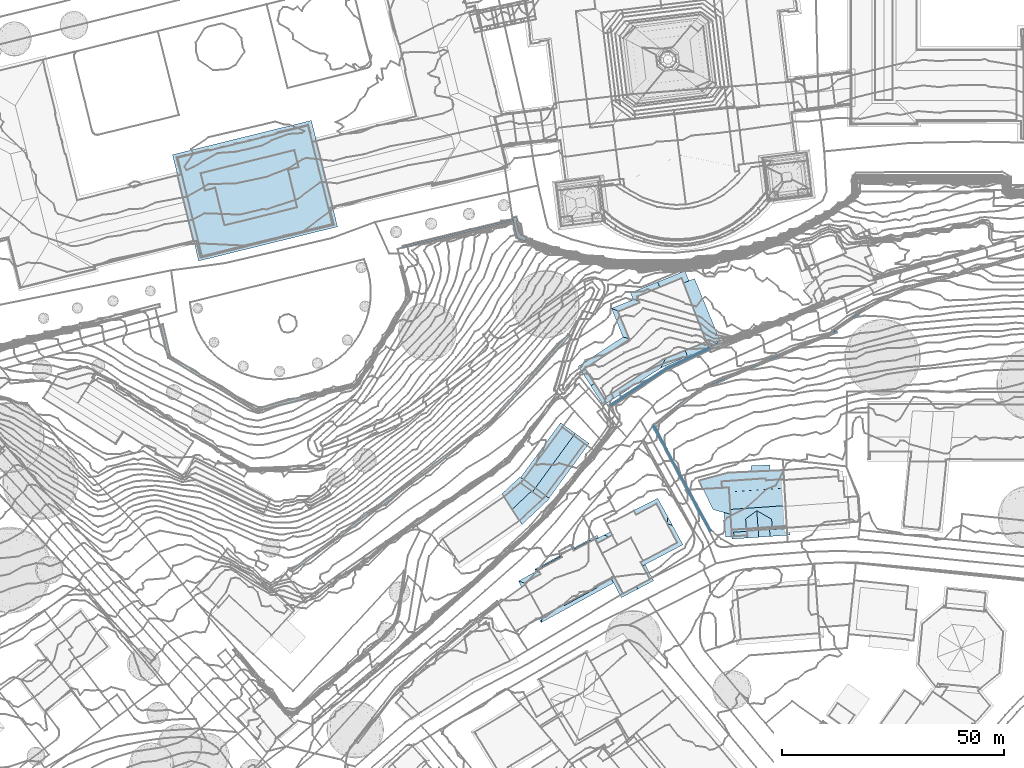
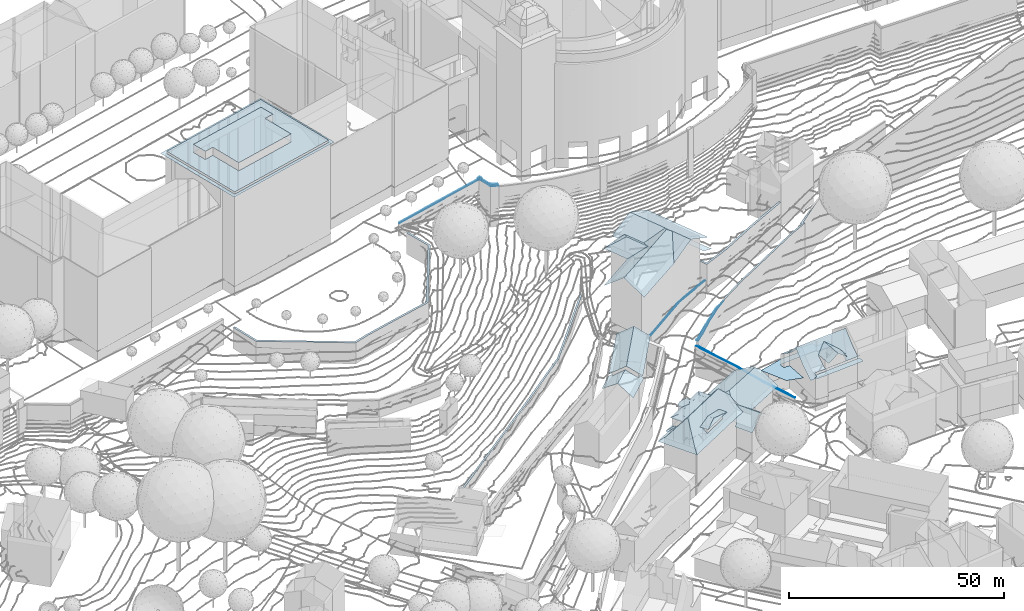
# Not in any storey, part 82 of 477: 20 roofs.
"""IFC4 building model written with IfcOpenShell, lengths in metres."""

from ifc_helpers import new_model, si_unit, frame, origin_with_axes, place, context, subcontext, project, spatial, polygons, element, save


model = new_model("IFC4")

# Units and contexts
model_context = context("Model", 3, precision=1e-05, world=origin_with_axes())
body_context = subcontext(model_context, "Body", "Model", "MODEL_VIEW")
ifc_project = project(units=[si_unit("AREAUNIT", "SQUARE_METRE"), si_unit("LENGTHUNIT", "METRE")], contexts=[model_context])

# Sites, building
site_1_placement = place(None, origin_with_axes())
site_1 = spatial("IfcSite", under=ifc_project, at=site_1_placement, Name="Topoexport Site")
site_2_placement = place(site_1_placement, origin_with_axes())
site_2 = spatial("IfcSite", under=site_1, at=site_2_placement, Name="TPX_BUILDINGS")
building_1_placement = place(site_2_placement, frame((211.8297320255, 101.9383160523, 526.7541), z_axis=(0.0, 0.0, 1.0), x_axis=(1.0, 0.0, 0.0)))
building_1 = spatial("IfcBuilding", under=site_2, at=building_1_placement, Name="Building 18", CompositionType="ELEMENT")

# Roofs
roof_1_placement = place(None, frame((211.8297320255, 101.9383160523, 526.7541), z_axis=(0.0, 0.0, 1.0), x_axis=(1.0, 0.0, 0.0)))
element("IfcRoof", 1, at=roof_1_placement, inside=building_1, Name="Roof 49", context=body_context, shape_type="Tessellation", body=[
    polygons([(260.5320000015, 243.3379000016, 13.4408), (285.4420000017, 249.4101000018, 13.4408), (285.5260000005, 249.0487999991, 13.4408), (260.620000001, 242.9765000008, 13.4408), (285.3690000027, 249.7305000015, 13.5628), (286.4820000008, 249.0634999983, 13.5628), (286.1970000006, 248.9990000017, 13.5628), (286.2809999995, 249.9393999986, 13.5628), (286.7640000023, 246.5692999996, 13.5628), (287.2149999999, 245.8680999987, 13.5628), (288.2349999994, 244.4609000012, 13.5628), (286.4130000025, 245.1796999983, 13.5628), (288.5089999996, 245.3583999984, 13.5628)], [[[3, 2, 1]], [[1, 4, 3]], [[7, 6, 5]], [[8, 5, 6]], [[7, 5, 9]], [[12, 11, 10]], [[10, 9, 12]], [[13, 10, 11]], [[12, 9, 5]]]),
])
roof_2_placement = place(None, frame((211.8297320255, 101.9383160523, 526.7541), z_axis=(0.0, 0.0, 1.0), x_axis=(1.0, 0.0, 0.0)))
element("IfcRoof", 2, at=roof_2_placement, inside=building_1, Name="Roof 73", context=body_context, shape_type="Tessellation", body=[
    polygons([(320.0240000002, 215.8564000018, -13.0867), (329.6909999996, 220.4560000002, -13.0867), (329.8200000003, 220.1338, -13.0868), (320.1950000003, 215.5537, -13.0867), (307.4640000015, 207.6141999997, -13.3507), (307.6610000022, 207.3280999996, -13.3497)], [[[3, 2, 1]], [[1, 4, 3]], [[4, 1, 5]], [[5, 6, 4]]]),
])
roof_3_placement = place(None, frame((211.8297320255, 101.9383160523, 526.7541), z_axis=(0.0, 0.0, 1.0), x_axis=(1.0, 0.0, 0.0)))
element("IfcRoof", 3, at=roof_3_placement, inside=building_1, Name="Roof 74", context=body_context, shape_type="Tessellation", body=[
    polygons([(330.2320000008, 220.5643999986, -8.4892), (336.4900000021, 222.9530999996, -8.1932), (329.9260000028, 219.8671999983, -8.4892), (329.1080000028, 221.9189000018, -8.4892), (329.6119999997, 222.120099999, -8.4892), (336.6920000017, 222.4492000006, -8.1932), (355.8230000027, 231.0771000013, -6.4134), (356.0329999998, 230.5771000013, -6.4134), (345.5150000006, 226.7470999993, -7.1543), (345.7250000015, 226.2470999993, -7.1543)], [[[3, 2, 1]], [[5, 4, 1]], [[3, 1, 4]], [[2, 3, 6]], [[9, 8, 7]], [[2, 6, 9]], [[10, 9, 6]], [[10, 8, 9]]]),
])
roof_4_placement = place(None, frame((211.8297320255, 101.9383160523, 526.7541), z_axis=(0.0, 0.0, 1.0), x_axis=(1.0, 0.0, 0.0)))
element("IfcRoof", 4, at=roof_4_placement, inside=building_1, Name="Roof 76", context=body_context, shape_type="Tessellation", body=[
    polygons([(235.6860000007, 170.3574000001, -8.7491), (264.8280000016, 191.9404000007, -8.3042), (235.7670000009, 169.8007999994, -8.7491), (234.7090000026, 170.1854999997, -8.7491), (234.8790000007, 170.6504000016, -8.7491), (265.126000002, 191.5458999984, -8.3042), (298.3029999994, 223.1532999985, -8.0072), (280.9480000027, 203.7412, -8.3042), (280.6090000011, 204.1053999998, -8.3042), (297.9340000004, 223.4833999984, -8.0072)], [[[3, 2, 1]], [[5, 4, 1]], [[3, 1, 4]], [[3, 6, 2]], [[9, 8, 7]], [[7, 10, 9]], [[2, 6, 9]], [[8, 9, 6]]]),
])
roof_5_placement = place(None, frame((211.8297320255, 101.9383160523, 526.7541), z_axis=(0.0, 0.0, 1.0), x_axis=(1.0, 0.0, 0.0)))
element("IfcRoof", 5, at=roof_5_placement, inside=building_1, Name="Roof 77", context=body_context, shape_type="Tessellation", body=[
    polygons([(205.9340000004, 225.5936999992, 13.5628), (208.1950000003, 218.4345999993, 13.5628), (207.700000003, 218.0762000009, 13.5628), (227.620000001, 206.4824000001, 13.5628), (231.375, 207.0731999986, 13.5628), (227.5439999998, 205.8671999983, 13.5628), (231.2230000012, 207.6162, 13.5628), (206.4830000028, 225.7226000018, 13.5628), (238.7939999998, 209.4706999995, 13.5628), (238.9260000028, 208.9228000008, 13.5628), (246.5879999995, 210.7558000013, 13.5628), (249.9810000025, 212.0956999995, 13.5628), (246.4610000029, 211.3057000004, 13.5628), (255.1559999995, 220.6933000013, 13.5628), (255.6390000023, 220.4023000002, 13.5628), (250.3399999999, 211.5986000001, 13.5628), (261.8560000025, 231.7558000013, 13.5628), (260.0400000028, 238.6777000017, 13.5628), (260.5860000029, 238.8203000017, 13.5628), (262.4620000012, 231.6669999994, 13.5628)], [[[3, 2, 1]], [[2, 3, 4]], [[4, 6, 5]], [[6, 4, 3]], [[7, 4, 5]], [[1, 2, 8]], [[5, 9, 7]], [[9, 5, 10]], [[9, 10, 11]], [[13, 11, 12]], [[11, 13, 9]], [[15, 14, 12]], [[16, 12, 11]], [[15, 12, 16]], [[19, 18, 17]], [[17, 15, 20]], [[17, 20, 19]], [[14, 15, 17]]]),
])
roof_6_placement = place(None, frame((211.8297320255, 101.9383160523, 526.7541), z_axis=(0.0, 0.0, 1.0), x_axis=(1.0, 0.0, 0.0)))
element("IfcRoof", 6, at=roof_6_placement, inside=building_1, Name="Roof 82", context=body_context, shape_type="Tessellation", body=[
    polygons([(327.0160000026, 210.5722000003, -14.1347), (327.3210000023, 210.2148000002, -14.1247), (325.4169999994, 209.3729999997, -14.4056), (325.7039999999, 209.0243999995, -14.4046), (329.5329999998, 211.4404000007, -13.6877), (323.7280000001, 207.5370999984, -14.5966), (323.4570000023, 207.9023000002, -14.5956), (318.8420000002, 204.1103000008, -15.2206), (319.1640000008, 203.6992000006, -15.2206), (317.3619999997, 202.9580000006, -15.2336), (317.5140000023, 202.3574000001, -15.2356), (317.2360000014, 202.8603000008, -15.2346)], [[[3, 2, 1]], [[2, 3, 4]], [[5, 1, 2]], [[7, 6, 3]], [[4, 3, 6]], [[6, 7, 8]], [[8, 9, 6]], [[12, 11, 10]], [[10, 9, 8]], [[9, 10, 11]]]),
])
roof_7_placement = place(None, frame((211.8297320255, 101.9383160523, 526.7541), z_axis=(0.0, 0.0, 1.0), x_axis=(1.0, 0.0, 0.0)))
element("IfcRoof", 7, at=roof_7_placement, inside=building_1, Name="Roof 83", context=body_context, shape_type="Tessellation", body=[
    polygons([(353.4940000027, 222.2256000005, -9.6301), (348.3960000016, 219.5342000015, -10.34), (348.2180000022, 219.9853000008, -10.339), (354.0190000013, 221.9697000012, -9.5821), (336.2930000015, 214.442400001, -12.1529), (330.8370000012, 212.0936999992, -13.3767), (336.1300000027, 214.8555000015, -12.1509), (357.693, 223.8564000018, -9.1681), (358.6170000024, 223.8066000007, -9.1681), (358.4250000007, 224.3143999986, -9.1681), (357.5240000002, 224.2617000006, -9.1681), (364.5199999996, 228.5967000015, -8.2052), (329.5329999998, 211.4404000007, -13.6877), (329.2880000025, 211.7743999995, -13.6997), (330.8900000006, 212.6229999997, -13.3187), (327.0160000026, 210.5722000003, -14.1347)], [[[3, 2, 1]], [[4, 1, 2]], [[7, 6, 5]], [[1, 9, 8]], [[9, 1, 4]], [[11, 8, 10]], [[9, 10, 8]], [[12, 11, 10]], [[15, 14, 13]], [[16, 13, 14]], [[2, 3, 5]], [[7, 5, 3]], [[7, 15, 6]], [[13, 6, 15]]]),
])
roof_8_placement = place(None, frame((211.8297320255, 101.9383160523, 526.7541), z_axis=(0.0, 0.0, 1.0), x_axis=(1.0, 0.0, 0.0)))
element("IfcRoof", 8, at=roof_8_placement, inside=building_1, Name="Roof 85", context=body_context, shape_type="Tessellation", body=[
    polygons([(330.1400000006, 179.2109000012, -21.656), (330.2019999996, 179.1581999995, -21.669), (329.9570000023, 179.0137000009, -21.669), (327.8320000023, 183.4316000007, -20.7571)], [[[3, 2, 1]], [[4, 3, 1]]]),
])
roof_9_placement = place(None, frame((211.8297320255, 101.9383160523, 526.7541), z_axis=(0.0, 0.0, 1.0), x_axis=(1.0, 0.0, 0.0)))
element("IfcRoof", 9, at=roof_9_placement, inside=building_1, Name="Roof 86", context=body_context, shape_type="Tessellation", body=[
    polygons([(323.4299999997, 191.4824000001, -18.9962), (322.4910000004, 192.7012000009, -18.6592), (322.7210000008, 192.8222999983, -18.6592), (325.938000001, 186.8964999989, -20.1591), (325.6339999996, 186.7373000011, -20.1591), (320.2380000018, 197.5185000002, -17.8803), (320.0100000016, 197.3916000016, -17.8803), (327.4610000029, 183.2256000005, -20.7571), (327.8320000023, 183.4316000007, -20.7571), (329.9570000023, 179.0137000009, -21.669), (316.9629999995, 202.6484000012, -16.6504), (317.6300000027, 202.4512000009, -16.7524), (317.5140000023, 202.3574000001, -16.7574), (317.2360000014, 202.8603000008, -16.6404)], [[[3, 2, 1]], [[1, 5, 4]], [[5, 1, 2]], [[2, 3, 6]], [[6, 7, 2]], [[10, 9, 8]], [[7, 6, 11]], [[13, 6, 12]], [[11, 6, 13]], [[14, 11, 13]], [[4, 5, 9]], [[8, 9, 5]]]),
])

# Building
building_2_placement = place(site_2_placement, frame((495.292732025, 288.7264160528, 509.5088), z_axis=(0.0, 0.0, 1.0), x_axis=(1.0, 0.0, 0.0)))
building_2 = spatial("IfcBuilding", under=site_2, at=building_2_placement, Name="Building 110", CompositionType="ELEMENT")

# Roofs
roof_10_placement = place(None, frame((495.292732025, 288.7264160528, 509.5088), z_axis=(0.0, 0.0, 1.0), x_axis=(1.0, 0.0, 0.0)))
element("IfcRoof", 10, at=roof_10_placement, inside=building_2, Name="Roof 0", context=body_context, shape_type="Tessellation", body=[
    polygons([(6.1500000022, 1.2479999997, 12.3218), (8.6700000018, -0.5927999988, 10.191), (1.813000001, -2.8125, 12.3218), (4.0310000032, -6.253899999, 9.522), (9.3670000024, 0.1933000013, 10.258), (10.2380000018, -0.442400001, 9.522), (9.0329999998, -0.2578000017, 10.188), (-0.4499999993, 0.6972000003, 9.522), (3.643000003, 3.0780999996, 10.244), (3.5500000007, 4.441399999, 9.522), (4.1290000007, 3.4891999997, 10.266), (4.3840000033, 3.8319999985, 10.213)], [[[3, 2, 1]], [[2, 3, 4]], [[7, 6, 5]], [[6, 7, 2]], [[6, 2, 4]], [[3, 9, 8]], [[9, 3, 1]], [[8, 9, 10]], [[12, 10, 11]], [[11, 10, 9]]]),
])
roof_11_placement = place(None, frame((495.292732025, 288.7264160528, 509.5088), z_axis=(0.0, 0.0, 1.0), x_axis=(1.0, 0.0, 0.0)))
element("IfcRoof", 11, at=roof_11_placement, inside=building_2, Name="Roof 1", context=body_context, shape_type="Tessellation", body=[
    polygons([(9.5020000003, -1.2001999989, 10.8019), (6.381000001, 1.0790999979, 13.2887), (19.1530000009, 12.0165999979, 10.8019), (12.7350000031, 16.7030999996, 10.8019), (3.0840000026, 3.4862999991, 10.8019), (16.0320000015, 14.2958999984, 13.2887)], [[[3, 2, 1]], [[5, 2, 4]], [[6, 2, 3]], [[2, 6, 4]]]),
])

# Building
building_3_placement = place(site_2_placement, frame((499.9197320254, 269.244916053, 502.2044), z_axis=(0.0, 0.0, 1.0), x_axis=(1.0, 0.0, 0.0)))
building_3 = spatial("IfcBuilding", under=site_2, at=building_3_placement, Name="Building 113", CompositionType="ELEMENT")

# Roof
roof_12_placement = place(None, frame((499.9197320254, 269.244916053, 502.2044), z_axis=(0.0, 0.0, 1.0), x_axis=(1.0, 0.0, 0.0)))
element("IfcRoof", 12, at=roof_12_placement, inside=building_3, Name="Roof 0", context=body_context, shape_type="Tessellation", body=[
    polygons([(4.7050000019, 2.3583999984, 13.5117), (0.4750000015, -0.2010999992, 13.6747), (0.0260000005, -0.0469000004, 13.4137), (3.3520000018, 2.5077999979, 12.9308), (-1.4169999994, 0.4472999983, 12.5738), (2.5230000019, 2.5995999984, 12.5738), (4.8090000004, 2.1669999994, 13.6747), (3.2369999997, 2.9638999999, 12.9908), (2.2470000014, 3.1044999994, 12.5738), (4.4710000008, 2.7870999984, 13.5117), (4.182, -6.9853000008, 13.6747), (21.0280000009, 2.2206999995, 13.6747), (4.0800000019, -7.3993999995, 13.4397), (3.7060000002, -8.9266999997, 12.5738), (21.7360000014, 0.9257999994, 12.5738), (13.2960000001, -1.8515000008, 15.8995), (8.9150000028, -5.1006000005, 15.5725), (11.1680000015, -3.0146000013, 15.8995), (12.075000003, -2.1737999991, 16.0315), (16.3310000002, -1.0469000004, 15.5725), (15.2600000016, 0.9140999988, 15.5725), (11.3200000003, -0.7928999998, 16.0315), (7.8430000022, -3.1396000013, 15.5725), (8.1710000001, 6.3418000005, 12.5738), (8.4600000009, 5.8359999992, 12.9808), (4.1110000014, 3.4433999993, 12.9888), (14.7790000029, 9.2998000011, 12.8818), (11.1229999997, 7.3193999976, 12.8728), (10.8540000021, 7.808600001, 12.5738), (10.8500000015, 7.8066999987, 12.5738), (17.3210000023, 9.004900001, 13.6747), (16.5460000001, 8.5821000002, 13.6747), (16.3370000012, 10.8046999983, 12.5738), (15.4880000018, 8.0029999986, 13.6747), (12.2220000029, 8.5557000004, 12.5239), (11.3450000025, 7.7441999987, 15.5725), (14.6449999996, 9.2276000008, 15.6585), (11.1090000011, 7.3447000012, 15.6445), (10.1480000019, 5.7168000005, 15.9395), (13.9270000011, 7.7822000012, 15.9395), (14.8630000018, 9.6669999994, 15.5725), (10.9030000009, 8.5527999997, 15.5725), (4.2719999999, 3.5331999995, 15.6645), (3.7460000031, 3.5907999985, 15.5725), (7.9910000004, 5.9111999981, 15.5725), (5.8370000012, 3.3603999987, 15.9395), (8.4400000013, 5.871100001, 15.6485), (8.0720000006, 6.5175999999, 15.6465), (7.5490000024, 6.7197000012, 15.5725), (8.1040000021, 7.4540999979, 15.5725), (7.8949999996, 7.1777999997, 15.5725), (7.7820000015, 7.0273999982, 15.5725), (8.9040000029, 8.1327999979, 15.5725), (10.3330000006, 8.5137000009, 15.5725), (10.4600000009, 8.5223000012, 15.5724), (9.8920000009, 8.4844000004, 15.5725), (6.9700000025, 1.2881000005, 15.9395), (15.0600000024, 5.7089999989, 15.9395), (16.4330000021, 6.7929999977, 15.5725), (5.3170000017, 0.7177999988, 15.5725), (17.8159999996, 6.1415999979, 17.1194), (20.0670000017, 3.9804999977, 16.0245), (18.7440000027, 4.3603999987, 17.1594), (17.3480000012, 4.7608000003, 18.3552), (18.2259999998, 7.3486999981, 16.0385), (9.2140000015, -4.0820000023, 13.8317), (15.313000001, -0.7479999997, 13.8337), (5.3530000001, -1.7939000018, 18.3552), (7.9250000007, -3.2890000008, 15.3725), (8.5500000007, -2.8672000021, 15.4545), (14.6510000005, 0.4648999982, 15.4525), (15.3420000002, 0.7637000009, 15.3725), (5.2400000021, 0.8574000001, 15.3725), (5.4800000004, 0.9404999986, 15.4255), (16.3570000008, 6.932599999, 15.3725), (16.1579999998, 6.7753999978, 15.4255)], [[[3, 2, 1]], [[5, 3, 4]], [[1, 4, 3]], [[6, 5, 4]], [[2, 7, 1]], [[9, 6, 8]], [[8, 6, 4]], [[4, 1, 10]], [[4, 10, 8]], [[13, 12, 11]], [[15, 13, 14]], [[15, 12, 13]], [[3, 13, 2]], [[14, 3, 5]], [[13, 11, 2]], [[14, 13, 3]], [[18, 17, 16]], [[16, 19, 18]], [[20, 16, 17]], [[21, 16, 20]], [[21, 19, 16]], [[19, 21, 22]], [[19, 22, 18]], [[18, 23, 17]], [[23, 18, 22]], [[26, 25, 24]], [[26, 9, 8]], [[9, 26, 24]], [[26, 8, 10]], [[29, 28, 27]], [[29, 30, 28]], [[32, 31, 27]], [[27, 33, 29]], [[33, 27, 31]], [[32, 27, 34]], [[30, 29, 35]], [[38, 37, 36]], [[40, 38, 39]], [[37, 41, 36]], [[37, 38, 40]], [[38, 36, 42]], [[39, 38, 42]], [[45, 44, 43]], [[47, 43, 46]], [[43, 47, 45]], [[47, 46, 39]], [[47, 39, 48]], [[47, 49, 45]], [[49, 47, 48]], [[39, 50, 48]], [[48, 50, 51]], [[51, 52, 48]], [[52, 49, 48]], [[39, 53, 50]], [[55, 54, 42]], [[39, 42, 54]], [[54, 56, 39]], [[53, 39, 56]], [[46, 57, 39]], [[39, 58, 40]], [[58, 39, 57]], [[58, 59, 37]], [[58, 37, 40]], [[37, 59, 41]], [[43, 44, 60]], [[46, 60, 57]], [[60, 46, 43]], [[63, 62, 61]], [[63, 61, 64]], [[61, 62, 65]], [[12, 67, 66]], [[66, 11, 12]], [[22, 68, 23]], [[68, 11, 23]], [[23, 11, 69]], [[66, 70, 69]], [[69, 11, 66]], [[68, 22, 64]], [[72, 71, 12]], [[12, 71, 67]], [[63, 22, 21]], [[62, 63, 21]], [[62, 21, 72]], [[22, 63, 64]], [[12, 62, 72]], [[2, 11, 68]], [[68, 60, 2]], [[60, 68, 57]], [[61, 58, 57]], [[57, 68, 64]], [[2, 73, 7]], [[73, 2, 60]], [[74, 7, 73]], [[61, 65, 58]], [[65, 59, 58]], [[59, 65, 75]], [[34, 76, 75]], [[75, 31, 32]], [[31, 75, 65]], [[75, 32, 34]], [[61, 57, 64]]]),
])

# Building
building_4_placement = place(site_2_placement, frame((516.2887320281, 278.1668160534, 502.5014), z_axis=(0.0, 0.0, 1.0), x_axis=(1.0, 0.0, 0.0)))
building_4 = spatial("IfcBuilding", under=site_2, at=building_4_placement, Name="Building 114", CompositionType="ELEMENT")

# Roof
roof_13_placement = place(None, frame((516.2887320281, 278.1668160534, 502.5014), z_axis=(0.0, 0.0, 1.0), x_axis=(1.0, 0.0, 0.0)))
element("IfcRoof", 13, at=roof_13_placement, inside=building_4, Name="Roof 0", context=body_context, shape_type="Tessellation", body=[
    polygons([(15.7559999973, 4.5341999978, 13.6317), (15.9479999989, 6.0155999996, 12.9317), (17.0249999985, 4.0145999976, 12.9977), (5.9589999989, -0.6016000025, 13.6317), (5.4629999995, -2.1631000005, 12.9347), (4.4599999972, -0.0439000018, 12.9517), (19.3359999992, -0.2763999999, 10.051), (10.2819999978, -5.0225000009, 10.051), (6.4469999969, -4.2402000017, 11.5469), (9.3259999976, -5.5234000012, 10.051), (1.5249999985, -2.9238000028, 9.947), (0.0, 0.0, 9.931), (0.1669999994, 0.0907999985, 10.039), (1.4869999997, 1.9208999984, 11.1789), (3.9560000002, -0.7422000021, 11.7399), (2.7630000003, 1.5126999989, 11.7189), (4.1219999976, -0.6523000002, 11.8468), (4.9689999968, -1.1201000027, 12.1548), (4.493999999, -1.3691000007, 11.8498), (4.4599999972, -0.0439000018, 12.1748), (-0.3080000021, 1.0048999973, 10.035), (3.9499999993, 0.8710999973, 12.1528), (3.7729999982, 1.1884999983, 12.1448), (4.3559999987, -1.4414000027, 11.7618), (3.3289999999, -1.9794999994, 10.9039), (3.943, -7.5742000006, 9.3831), (1.5229999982, -2.9248000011, 9.3941), (5.4329999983, -12.2118999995, 8.7661), (3.2119999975, -7.9736000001, 8.7661), (4.1030000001, -0.6621000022, 11.8638), (9.1389999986, -10.2705000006, 11.8638), (6.311999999, -3.9550999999, 11.5369), (4.6270000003, -1.2988000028, 11.7359), (4.9689999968, -1.1201000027, 11.4399), (9.557, -5.4023000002, 9.851), (12.7239999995, -8.3896000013, 8.7661), (10.2819999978, -5.0225000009, 9.2251), (9.8539999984, -4.2168000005, 9.2291), (10.3880000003, -3.9326000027, 8.7661), (2.9499999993, 2.6669999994, 11.1789), (2.1789999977, 4.365199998, 10.115), (2.0419999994, 4.2949000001, 10.114), (13.6359999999, 10.2118999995, 10.195), (3.7859999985, 5.1845999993, 10.126), (19.3359999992, -0.2763999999, 9.851), (11.8279999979, -4.2109000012, 10.001)], [[[3, 2, 1]], [[6, 5, 4]], [[3, 1, 7]], [[8, 7, 1]], [[1, 4, 8]], [[4, 5, 9]], [[10, 8, 9]], [[9, 8, 4]], [[13, 12, 11]], [[11, 14, 13]], [[14, 11, 15]], [[15, 17, 16]], [[19, 18, 17]], [[17, 18, 20]], [[13, 14, 21]], [[22, 16, 17]], [[23, 16, 22]], [[16, 14, 15]], [[22, 17, 20]], [[15, 11, 24]], [[27, 26, 25]], [[26, 29, 28]], [[30, 15, 24]], [[31, 24, 25]], [[30, 24, 31]], [[25, 26, 31]], [[31, 26, 28]], [[17, 30, 19]], [[19, 30, 31]], [[34, 33, 32]], [[32, 33, 19]], [[19, 9, 32]], [[19, 31, 9]], [[36, 35, 10]], [[10, 9, 31]], [[36, 10, 31]], [[39, 38, 37]], [[37, 36, 39]], [[36, 37, 35]], [[23, 6, 2]], [[40, 16, 2]], [[40, 14, 16]], [[42, 40, 41]], [[16, 23, 2]], [[4, 1, 2]], [[43, 40, 2]], [[44, 41, 40]], [[40, 43, 44]], [[6, 4, 2]], [[8, 46, 45]]]),
])

# Building
building_5_placement = place(site_2_placement, frame((513.5957320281, 317.6404160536, 509.4928), z_axis=(0.0, 0.0, 1.0), x_axis=(1.0, 0.0, 0.0)))
building_5 = spatial("IfcBuilding", under=site_2, at=building_5_placement, Name="Building 116", CompositionType="ELEMENT")

# Roofs
roof_14_placement = place(None, frame((513.5957320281, 317.6404160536, 509.4928), z_axis=(0.0, 0.0, 1.0), x_axis=(1.0, 0.0, 0.0)))
element("IfcRoof", 14, at=roof_14_placement, inside=building_5, Name="Roof 0", context=body_context, shape_type="Tessellation", body=[
    polygons([(27.2879999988, 5.9628999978, 12.3058), (27.3729999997, 5.9970999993, 12.2738), (27.7219999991, 4.9091999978, 12.3058), (30.5109999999, 6.0566999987, 11.2639), (22.1969999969, 19.3085999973, 12.1768), (24.6409999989, 20.3154999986, 11.2639)], [[[3, 2, 1]], [[2, 3, 4]], [[2, 6, 5]], [[2, 4, 6]]]),
])
roof_15_placement = place(None, frame((513.5957320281, 317.6404160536, 509.4928), z_axis=(0.0, 0.0, 1.0), x_axis=(1.0, 0.0, 0.0)))
element("IfcRoof", 15, at=roof_15_placement, inside=building_5, Name="Roof 1", context=body_context, shape_type="Tessellation", body=[
    polygons([(-1.6229999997, 0.4687999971, 15.4205), (8.5130000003, 7.1327999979, 15.4205), (9.9519999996, 6.7344000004, 16.2454), (1.242999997, -3.8925000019, 19.2541), (13.2729999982, 5.8154999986, 18.1502), (20.2419999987, 9.8046999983, 18.5142), (19.6319999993, 8.1972999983, 19.2541), (14.6009999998, 10.0205000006, 16.1054), (16.810999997, 18.3222999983, 18.5142), (12.5009999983, 15.2324999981, 16.1054), (10.1739999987, 17.0898999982, 15.4205), (16.311999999, 19.5625, 18.5142), (10.799999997, 15.5370999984, 15.4205), (10.925999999, 11.6415999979, 18.1502), (5.9189999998, 13.5713, 15.4205), (7.6380000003, 12.9081999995, 16.3574), (21.0159999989, 7.8827999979, 18.5142), (18.1059999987, 2.2529999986, 16.2684), (4.1559999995, -8.3222000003, 15.4205), (17.0069999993, 0.1259999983, 15.4205), (23.0759999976, 2.7675999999, 18.5142), (22.5590000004, 4.0527999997, 18.5142), (29.1829999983, 5.423899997, 15.4305), (22.4869999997, 22.0497999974, 15.4305)], [[[3, 2, 1]], [[1, 4, 3]], [[7, 6, 5]], [[5, 3, 4]], [[8, 5, 6]], [[7, 5, 4]], [[10, 8, 9]], [[8, 6, 9]], [[12, 11, 10]], [[13, 10, 11]], [[10, 9, 12]], [[10, 14, 8]], [[5, 8, 14]], [[16, 15, 2]], [[14, 16, 3]], [[3, 5, 14]], [[3, 16, 2]], [[10, 13, 14]], [[13, 16, 14]], [[16, 13, 15]], [[17, 6, 7]], [[18, 17, 4]], [[4, 17, 7]], [[20, 18, 19]], [[19, 18, 4]], [[18, 20, 21]], [[22, 17, 18]], [[22, 18, 21]], [[23, 22, 21]], [[22, 23, 17]], [[23, 6, 17]], [[6, 24, 9]], [[24, 6, 23]], [[12, 9, 24]]]),
])

# Building
building_6_placement = place(site_2_placement, frame((539.2757320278, 292.3553160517, 501.0115), z_axis=(0.0, 0.0, 1.0), x_axis=(1.0, 0.0, 0.0)))
building_6 = spatial("IfcBuilding", under=site_2, at=building_6_placement, Name="Building 117", CompositionType="ELEMENT")

# Roofs
roof_16_placement = place(None, frame((539.2757320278, 292.3553160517, 501.0115), z_axis=(0.0, 0.0, 1.0), x_axis=(1.0, 0.0, 0.0)))
element("IfcRoof", 16, at=roof_16_placement, inside=building_6, Name="Roof 0", context=body_context, shape_type="Tessellation", body=[
    polygons([(6.7630000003, -1.5878999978, 5.8745), (7.1259999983, -7.5878999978, 5.8744), (5.2049999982, -1.6728999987, 5.8745), (3.129999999, -6.5439999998, 5.8744), (5.1039999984, -0.2100000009, 5.8745), (6.5359999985, 1.754900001, 5.8745), (0.0, 0.0, 5.8745), (11.5989999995, 1.9844000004, 5.8745), (15.112999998, 0.0155999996, 5.8744), (15.0810000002, 0.4803999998, 5.8744), (16.0590000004, 2.1865000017, 5.8744), (11.7899999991, 3.3808000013, 5.8745), (19.7589999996, 0.1220000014, 5.8744), (19.2170000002, 0.0839999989, 5.8744), (19.2049999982, 0.2987999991, 5.8744), (19.6389999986, 2.3496000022, 5.8744), (15.9389999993, 3.5311999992, 5.8745)], [[[3, 2, 1]], [[2, 3, 4]], [[4, 3, 5]], [[7, 5, 6]], [[7, 4, 5]], [[5, 8, 6]], [[11, 10, 9]], [[10, 12, 8]], [[15, 14, 13]], [[15, 13, 16]], [[11, 9, 15]], [[17, 12, 11]], [[15, 16, 11]], [[12, 10, 11]], [[8, 5, 10]]]),
])
roof_17_placement = place(None, frame((539.2757320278, 292.3553160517, 501.0115), z_axis=(0.0, 0.0, 1.0), x_axis=(1.0, 0.0, 0.0)))
element("IfcRoof", 17, at=roof_17_placement, inside=building_6, Name="Roof 1", context=body_context, shape_type="Tessellation", body=[
    polygons([(7.8519999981, -12.4189999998, 8.8042), (7.4019999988, -13.1895000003, 8.8042), (7.3559999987, -12.4521999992, 8.8042), (10.867999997, -11.4239000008, 8.8042), (7.8349999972, -12.1748000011, 8.8042), (7.7969999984, -11.6367000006, 8.8042), (20.4749999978, -12.2841999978, 8.8041), (20.362999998, -10.6620999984, 8.8041), (10.862999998, -11.3583999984, 8.8042), (5.2049999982, -1.6728999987, 9.6951), (6.8220000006, -2.557599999, 10.261), (5.2740000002, -2.6651000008, 10.261), (5.1039999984, -0.2100000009, 8.8612), (15.112999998, 0.0155999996, 9.1271), (15.0810000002, 0.4803999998, 8.8612), (19.3189999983, -1.692400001, 10.261), (19.6019999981, 0.3251999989, 9.1271), (19.6169999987, 0.1123000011, 9.2491), (19.2170000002, 0.0839999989, 9.2481), (19.2049999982, 0.2987999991, 9.1271), (7.4049999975, -12.2040999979, 8.8042), (7.3399999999, -12.2100000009, 8.8042), (7.2719999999, -11.1279999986, 8.8042), (7.3399999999, -11.1230999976, 8.8042), (19.7069999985, -8.4677999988, 11.3619), (16.375, -8.942400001, 11.1619), (16.3579999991, -8.6992000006, 11.3619), (19.8339999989, -10.7012000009, 9.5291), (20.3619999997, -10.6620999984, 9.5311), (20.368999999, -10.7665999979, 9.4461), (10.867999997, -11.4239000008, 9.4461), (16.5139999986, -10.9443999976, 9.5181), (10.686999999, -11.371100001, 9.4991), (5.7419999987, -9.433600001, 11.3619), (10.5289999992, -9.1026000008, 11.3619), (7.7969999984, -11.6367000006, 9.4461), (7.368999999, -12.6708999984, 8.6252), (5.9729999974, -12.7675999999, 8.6252), (15.8959999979, -11.0205000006, 11.8229), (13.0209999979, -6.7822999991, 13.7327), (16.5139999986, -10.9443999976, 11.3619), (13.3259999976, -11.1787, 13.7327), (16.004999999, -12.5938000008, 11.8239), (13.4360000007, -12.7714999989, 13.7327), (16.5159999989, -10.9776000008, 11.3619), (10.4959999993, -8.620099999, 11.8969), (10.7579999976, -12.4003999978, 11.8969), (10.7960000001, -12.9540999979, 11.8969), (19.5439999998, -5.629900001, 14.5066), (7.0599999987, -6.4941999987, 14.5066), (5.5460000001, -6.5995999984, 14.5066), (10.5089999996, -8.8017999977, 11.6969)], [[[3, 2, 1]], [[5, 1, 4]], [[6, 5, 4]], [[2, 7, 1]], [[4, 7, 8]], [[7, 4, 1]], [[8, 9, 4]], [[12, 11, 10]], [[10, 14, 13]], [[14, 10, 11]], [[13, 14, 15]], [[11, 16, 14]], [[19, 18, 17]], [[20, 14, 19]], [[17, 20, 19]], [[19, 14, 16]], [[23, 22, 21]], [[21, 24, 23]], [[27, 26, 25]], [[28, 25, 26]], [[30, 29, 28]], [[32, 31, 30]], [[33, 31, 32]], [[32, 30, 28]], [[26, 32, 28]], [[33, 35, 34]], [[33, 34, 36]], [[1, 36, 3]], [[3, 38, 37]], [[38, 3, 36]], [[36, 34, 38]], [[31, 33, 36]], [[27, 40, 39]], [[39, 41, 27]], [[39, 40, 42]], [[44, 43, 39]], [[39, 45, 41]], [[44, 39, 42]], [[40, 46, 42]], [[42, 46, 47]], [[47, 48, 44]], [[47, 44, 42]], [[25, 49, 40]], [[40, 49, 50]], [[25, 40, 27]], [[46, 50, 51]], [[50, 46, 40]], [[46, 51, 34]], [[46, 34, 52]], [[52, 34, 35]], [[16, 11, 49]], [[49, 11, 50]], [[50, 12, 51]], [[12, 50, 11]]]),
])

# Building
building_7_placement = place(site_2_placement, frame((373.5987320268, 371.2869160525, 536.8784), z_axis=(0.0, 0.0, 1.0), x_axis=(1.0, 0.0, 0.0)))
building_7 = spatial("IfcBuilding", under=site_2, at=building_7_placement, Name="Building 210", CompositionType="ELEMENT")

# Roofs
roof_18_placement = place(None, frame((373.5987320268, 371.2869160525, 536.8784), z_axis=(0.0, 0.0, 1.0), x_axis=(1.0, 0.0, 0.0)))
element("IfcRoof", 18, at=roof_18_placement, inside=building_7, Name="Roof 1", context=body_context, shape_type="Tessellation", body=[
    polygons([(75.3640000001, -8.2529000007, 31.5678), (72.9580000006, -8.8467000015, 31.5678), (74.4100000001, -4.3856999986, 31.5679), (53.2630000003, -9.6035000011, 31.5679), (75.0439999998, -17.2998000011, 31.5678), (56.5469999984, -12.8955000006, 31.5679), (54.2159999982, -13.4697000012, 31.5679), (58.6330000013, -21.3495999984, 31.5678)], [[[3, 2, 1]], [[2, 3, 4]], [[2, 6, 5]], [[4, 7, 6]], [[6, 8, 5]], [[4, 6, 2]]]),
])
roof_19_placement = place(None, frame((373.5987320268, 371.2869160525, 536.8784), z_axis=(0.0, 0.0, 1.0), x_axis=(1.0, 0.0, 0.0)))
element("IfcRoof", 19, at=roof_19_placement, inside=building_7, Name="Roof 2", context=body_context, shape_type="Tessellation", body=[
    polygons([(48.0639999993, -6.1162, 29.2891), (54.2159999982, -13.4697000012, 29.2891), (53.5419999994, -28.3251999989, 29.2891), (58.6330000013, -21.3495999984, 29.2891), (56.5469999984, -12.8955000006, 29.2891), (75.0439999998, -17.2998000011, 29.2891), (53.2630000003, -9.6035000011, 29.2891), (57.8649999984, -3.7060000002, 29.2891), (75.3640000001, -8.2529000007, 29.2891), (72.9580000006, -8.8467000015, 29.2891), (74.4100000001, -4.3856999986, 29.2891), (78.4189999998, -2.5654000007, 29.2891), (82.9759999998, -21.0643999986, 29.289), (77.4970000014, 1.1444999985, 29.2891), (70.6050000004, -0.5516999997, 29.2891)], [[[3, 2, 1]], [[2, 3, 4]], [[4, 5, 2]], [[3, 6, 4]], [[7, 1, 2]], [[8, 1, 7]], [[10, 6, 9]], [[8, 7, 11]], [[9, 13, 12]], [[13, 9, 6]], [[6, 3, 13]], [[15, 11, 14]], [[8, 11, 15]], [[12, 14, 11]], [[11, 9, 12]]]),
])
roof_20_placement = place(None, frame((373.5987320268, 371.2869160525, 536.8784), z_axis=(0.0, 0.0, 1.0), x_axis=(1.0, 0.0, 0.0)))
element("IfcRoof", 20, at=roof_20_placement, inside=building_7, Name="Roof 7", context=body_context, shape_type="Tessellation", body=[
    polygons([(77.4970000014, 1.1444999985, 28.7191), (70.6039999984, -0.5507999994, 28.7191), (78.1909999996, 2.3407999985, 28.7191), (67.561999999, -1.3310000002, 28.7191), (70.1350000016, -0.691399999, 28.7191), (79.3449999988, -2.3348999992, 28.7191), (67.0709999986, -1.4550999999, 28.7191), (64.4990000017, -2.0888999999, 28.7191), (64.5260000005, -2.1865000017, 28.7191), (64.006000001, -2.2138999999, 28.7191), (67.5949999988, -1.4305999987, 28.7191), (61.4290000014, -2.8436999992, 28.7191), (82.9759999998, -21.0643999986, 28.7191), (84.1070000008, -21.6405999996, 28.7191), (53.5419999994, -28.3251999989, 28.7191), (70.1629999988, -0.7899999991, 28.7191), (67.0929999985, -1.5527000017, 28.7191), (64.0229999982, -2.3027000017, 28.7191), (58.368999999, -3.6055000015, 28.7191), (57.8660000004, -3.7109000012, 28.7191), (60.932, -2.9618999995, 28.7191), (46.8409999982, -5.3925999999, 28.7192), (60.9580000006, -3.0654000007, 28.7191), (47.9979999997, -10.0830000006, 28.7191), (48.0639999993, -6.1162, 28.7191), (54.824000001, -4.4580000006, 28.7191), (55.2969999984, -4.3535000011, 28.7191), (55.3229999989, -4.4492000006, 28.7191), (58.3869999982, -3.6992000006, 28.7191), (51.6810000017, -25.0097000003, 28.7191), (52.7569999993, -29.3729999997, 28.7191), (57.8920000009, -3.8203000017, 28.7191), (61.4560000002, -2.9433000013, 28.7191)], [[[3, 2, 1]], [[5, 2, 4]], [[2, 3, 4]], [[3, 1, 6]], [[3, 7, 4]], [[7, 3, 8]], [[8, 9, 7]], [[8, 3, 10]], [[5, 4, 11]], [[3, 12, 10]], [[14, 6, 13]], [[14, 13, 15]], [[1, 13, 6]], [[11, 16, 5]], [[17, 7, 9]], [[10, 12, 18]], [[21, 20, 19]], [[20, 21, 22]], [[23, 21, 19]], [[21, 12, 22]], [[25, 22, 24]], [[22, 25, 26]], [[26, 27, 22]], [[20, 27, 28]], [[22, 27, 20]], [[12, 3, 22]], [[24, 15, 25]], [[29, 23, 19]], [[30, 15, 24]], [[15, 30, 31]], [[15, 31, 14]], [[20, 28, 32]], [[12, 33, 18]]]),
])

save(model, "model.ifc")
